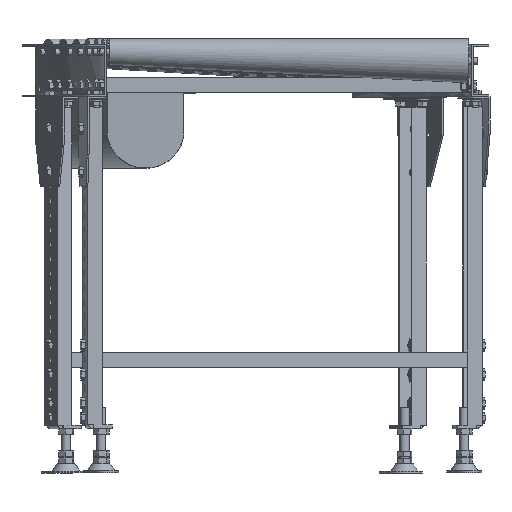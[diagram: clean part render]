
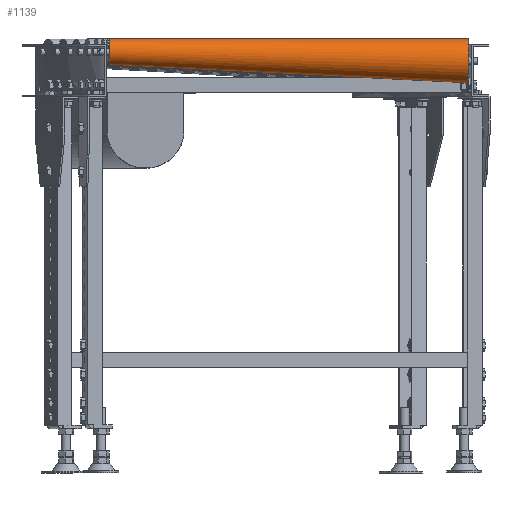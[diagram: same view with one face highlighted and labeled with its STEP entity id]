
A CAD part, top view. The second image highlights one B-rep face of the part: STEP entity #1139.
In plain terms, the highlighted free-form (B-spline) face has degree [2, 1] with [7, 2] control points.
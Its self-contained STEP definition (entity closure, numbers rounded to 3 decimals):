
#1139=ADVANCED_FACE('',(#3327),#3326,.T.);
#3326=( BOUNDED_SURFACE() B_SPLINE_SURFACE( 2,1,((#24770,#24771),(#24772,#24773),(#24774,#24775),(#24776,#24777),(#24778,#24779),(#24780,#24781),(#24782,#24783)), .UNSPECIFIED.,.T.,.F.,.F.) B_SPLINE_SURFACE_WITH_KNOTS((3,2,2,3),(2,2),(0.,0.333,0.667,1.),(0.,1.), .UNSPECIFIED. ) GEOMETRIC_REPRESENTATION_ITEM() RATIONAL_B_SPLINE_SURFACE(((1.,1.),(0.5,0.5),(1.,1.),(0.5,0.5),(1.,1.),(0.5,0.5),(1.,1.))) REPRESENTATION_ITEM('') SURFACE() );
#3327=FACE_OUTER_BOUND('',#24784,.T.);
#24770=CARTESIAN_POINT('',(905.446,-8.951,-11.67));
#24771=CARTESIAN_POINT('',(1525.556,-15.062,-19.713));
#24772=CARTESIAN_POINT('',(905.446,-40.188,12.064));
#24773=CARTESIAN_POINT('',(1525.556,-67.606,20.212));
#24774=CARTESIAN_POINT('',(904.046,-45.107,-26.832));
#24775=CARTESIAN_POINT('',(1523.202,-75.88,-45.216));
#24776=CARTESIAN_POINT('',(902.647,-50.026,-65.728));
#24777=CARTESIAN_POINT('',(1520.848,-84.155,-110.644));
#24778=CARTESIAN_POINT('',(904.046,-13.87,-50.567));
#24779=CARTESIAN_POINT('',(1523.202,-23.336,-85.141));
#24780=CARTESIAN_POINT('',(905.446,22.285,-35.405));
#24781=CARTESIAN_POINT('',(1525.556,37.482,-59.637));
#24782=CARTESIAN_POINT('',(905.446,-8.951,-11.67));
#24783=CARTESIAN_POINT('',(1525.556,-15.062,-19.713));
#24784=EDGE_LOOP('',(#35806,#35807,#35808,#35809,#35810));
#35806=ORIENTED_EDGE('',*,*,#45966,.T.);
#35807=ORIENTED_EDGE('',*,*,#45976,.T.);
#35808=ORIENTED_EDGE('',*,*,#45969,.T.);
#35809=ORIENTED_EDGE('',*,*,#45976,.F.);
#35810=ORIENTED_EDGE('',*,*,#45965,.T.);
#45965=EDGE_CURVE('',#51054,#51055,#51056,.T.);
#45966=EDGE_CURVE('',#51055,#51054,#51062,.T.);
#45969=EDGE_CURVE('',#51082,#51082,#51083,.T.);
#45976=EDGE_CURVE('',#51054,#51082,#51129,.T.);
#51054=VERTEX_POINT('',#84862);
#51055=VERTEX_POINT('',#84863);
#51056=CIRCLE('',#84867,22.65);
#51062=CIRCLE('',#84871,22.65);
#51082=VERTEX_POINT('',#84882);
#51083=CIRCLE('',#84886,38.1);
#51129=(BOUNDED_CURVE() B_SPLINE_CURVE(1,(#84911,#84912),.UNSPECIFIED.,.F.,.F.) B_SPLINE_CURVE_WITH_KNOTS((2,2),(0.,1.),.UNSPECIFIED.) CURVE() GEOMETRIC_REPRESENTATION_ITEM() RATIONAL_B_SPLINE_CURVE((1.,1.)) REPRESENTATION_ITEM('') );
#84862=CARTESIAN_POINT('',(905.446,-8.951,-11.67));
#84863=CARTESIAN_POINT('',(903.58,-36.334,-47.709));
#84864=CARTESIAN_POINT('',(904.513,-22.643,-29.69));
#84865=DIRECTION('',(0.999,-0.025,-0.033));
#84866=DIRECTION('',(-0.041,-0.604,-0.796));
#84867=AXIS2_PLACEMENT_3D('',#84864,#84865,#84866);
#84868=CARTESIAN_POINT('',(904.513,-22.643,-29.69));
#84869=DIRECTION('',(0.999,-0.025,-0.033));
#84870=DIRECTION('',(-0.041,-0.604,-0.796));
#84871=AXIS2_PLACEMENT_3D('',#84868,#84869,#84870);
#84882=CARTESIAN_POINT('',(1525.556,-15.062,-19.713));
#84883=CARTESIAN_POINT('',(1523.987,-38.093,-50.023));
#84884=DIRECTION('',(-0.999,0.025,0.033));
#84885=DIRECTION('',(0.041,0.604,0.796));
#84886=AXIS2_PLACEMENT_3D('',#84883,#84884,#84885);
#84911=CARTESIAN_POINT('',(905.446,-8.951,-11.67));
#84912=CARTESIAN_POINT('',(1525.556,-15.062,-19.713));
